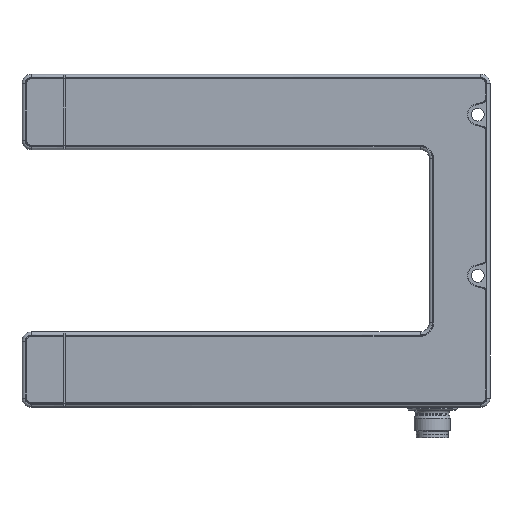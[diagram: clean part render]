
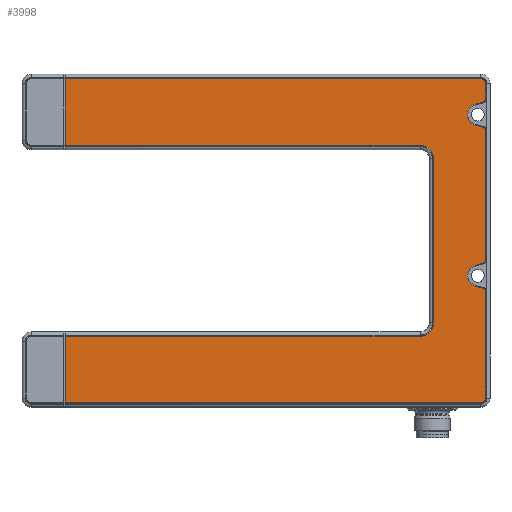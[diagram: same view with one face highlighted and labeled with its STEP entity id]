
A CAD part, front view. The second image highlights one B-rep face of the part: STEP entity #3998.
In plain terms, the highlighted planar face has unit normal (0, -1, 0).
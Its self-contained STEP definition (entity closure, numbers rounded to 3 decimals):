
#133=PLANE('',#4384);
#276=FACE_OUTER_BOUND('',#510,.T.);
#510=EDGE_LOOP('',(#3131,#3132,#3133,#3134,#3135,#3136,#3137,#3138,#3139,
#3140,#3141,#3142,#3143,#3144,#3145,#3146,#3147,#3148,#3149,#3150,#3151,
#3152,#3153,#3154));
#749=LINE('',#6407,#1083);
#808=LINE('',#6618,#1142);
#819=LINE('',#6646,#1153);
#851=LINE('',#6717,#1185);
#855=LINE('',#6724,#1189);
#859=LINE('',#6743,#1193);
#860=LINE('',#6747,#1194);
#861=LINE('',#6751,#1195);
#862=LINE('',#6755,#1196);
#863=LINE('',#6759,#1197);
#864=LINE('',#6763,#1198);
#865=LINE('',#6767,#1199);
#866=LINE('',#6772,#1200);
#867=LINE('',#6775,#1201);
#1083=VECTOR('',#5035,10.);
#1142=VECTOR('',#5216,10.);
#1153=VECTOR('',#5237,10.);
#1185=VECTOR('',#5303,10.);
#1189=VECTOR('',#5309,10.);
#1193=VECTOR('',#5329,10.);
#1194=VECTOR('',#5332,10.);
#1195=VECTOR('',#5335,10.);
#1196=VECTOR('',#5338,10.);
#1197=VECTOR('',#5341,10.);
#1198=VECTOR('',#5344,10.);
#1199=VECTOR('',#5347,10.);
#1200=VECTOR('',#5352,10.);
#1201=VECTOR('',#5355,10.);
#1461=CIRCLE('',#4385,1.55);
#1462=CIRCLE('',#4386,0.95);
#1463=CIRCLE('',#4387,3.55);
#1464=CIRCLE('',#4388,0.95);
#1465=CIRCLE('',#4389,0.95);
#1466=CIRCLE('',#4390,3.55);
#1467=CIRCLE('',#4391,0.95);
#1468=CIRCLE('',#4392,1.55);
#1469=CIRCLE('',#4393,4.45);
#1470=CIRCLE('',#4394,4.45);
#1722=VERTEX_POINT('',#6404);
#1723=VERTEX_POINT('',#6406);
#1813=VERTEX_POINT('',#6615);
#1824=VERTEX_POINT('',#6640);
#1826=VERTEX_POINT('',#6644);
#1848=VERTEX_POINT('',#6715);
#1850=VERTEX_POINT('',#6722);
#1856=VERTEX_POINT('',#6740);
#1857=VERTEX_POINT('',#6742);
#1858=VERTEX_POINT('',#6744);
#1859=VERTEX_POINT('',#6746);
#1860=VERTEX_POINT('',#6748);
#1861=VERTEX_POINT('',#6750);
#1862=VERTEX_POINT('',#6752);
#1863=VERTEX_POINT('',#6754);
#1864=VERTEX_POINT('',#6756);
#1865=VERTEX_POINT('',#6758);
#1866=VERTEX_POINT('',#6760);
#1867=VERTEX_POINT('',#6762);
#1868=VERTEX_POINT('',#6764);
#1869=VERTEX_POINT('',#6766);
#1870=VERTEX_POINT('',#6769);
#1871=VERTEX_POINT('',#6771);
#1872=VERTEX_POINT('',#6773);
#2170=EDGE_CURVE('',#1723,#1722,#749,.T.);
#2275=EDGE_CURVE('',#1722,#1813,#808,.T.);
#2288=EDGE_CURVE('',#1824,#1826,#819,.T.);
#2324=EDGE_CURVE('',#1826,#1848,#851,.T.);
#2328=EDGE_CURVE('',#1813,#1850,#855,.T.);
#2336=EDGE_CURVE('',#1848,#1856,#1461,.T.);
#2337=EDGE_CURVE('',#1856,#1857,#859,.T.);
#2338=EDGE_CURVE('',#1857,#1858,#1462,.T.);
#2339=EDGE_CURVE('',#1858,#1859,#860,.T.);
#2340=EDGE_CURVE('',#1859,#1860,#1463,.T.);
#2341=EDGE_CURVE('',#1860,#1861,#861,.T.);
#2342=EDGE_CURVE('',#1861,#1862,#1464,.T.);
#2343=EDGE_CURVE('',#1862,#1863,#862,.T.);
#2344=EDGE_CURVE('',#1863,#1864,#1465,.T.);
#2345=EDGE_CURVE('',#1864,#1865,#863,.T.);
#2346=EDGE_CURVE('',#1865,#1866,#1466,.T.);
#2347=EDGE_CURVE('',#1866,#1867,#864,.T.);
#2348=EDGE_CURVE('',#1867,#1868,#1467,.T.);
#2349=EDGE_CURVE('',#1868,#1869,#865,.T.);
#2350=EDGE_CURVE('',#1869,#1723,#1468,.T.);
#2351=EDGE_CURVE('',#1850,#1870,#1469,.T.);
#2352=EDGE_CURVE('',#1870,#1871,#866,.T.);
#2353=EDGE_CURVE('',#1871,#1872,#1470,.T.);
#2354=EDGE_CURVE('',#1872,#1824,#867,.T.);
#3131=ORIENTED_EDGE('',*,*,#2288,.T.);
#3132=ORIENTED_EDGE('',*,*,#2324,.T.);
#3133=ORIENTED_EDGE('',*,*,#2336,.T.);
#3134=ORIENTED_EDGE('',*,*,#2337,.T.);
#3135=ORIENTED_EDGE('',*,*,#2338,.T.);
#3136=ORIENTED_EDGE('',*,*,#2339,.T.);
#3137=ORIENTED_EDGE('',*,*,#2340,.T.);
#3138=ORIENTED_EDGE('',*,*,#2341,.T.);
#3139=ORIENTED_EDGE('',*,*,#2342,.T.);
#3140=ORIENTED_EDGE('',*,*,#2343,.T.);
#3141=ORIENTED_EDGE('',*,*,#2344,.T.);
#3142=ORIENTED_EDGE('',*,*,#2345,.T.);
#3143=ORIENTED_EDGE('',*,*,#2346,.T.);
#3144=ORIENTED_EDGE('',*,*,#2347,.T.);
#3145=ORIENTED_EDGE('',*,*,#2348,.T.);
#3146=ORIENTED_EDGE('',*,*,#2349,.T.);
#3147=ORIENTED_EDGE('',*,*,#2350,.T.);
#3148=ORIENTED_EDGE('',*,*,#2170,.T.);
#3149=ORIENTED_EDGE('',*,*,#2275,.T.);
#3150=ORIENTED_EDGE('',*,*,#2328,.T.);
#3151=ORIENTED_EDGE('',*,*,#2351,.T.);
#3152=ORIENTED_EDGE('',*,*,#2352,.T.);
#3153=ORIENTED_EDGE('',*,*,#2353,.T.);
#3154=ORIENTED_EDGE('',*,*,#2354,.T.);
#3998=ADVANCED_FACE('',(#276),#133,.F.);
#4384=AXIS2_PLACEMENT_3D('',#6739,#5325,#5326);
#4385=AXIS2_PLACEMENT_3D('',#6741,#5327,#5328);
#4386=AXIS2_PLACEMENT_3D('',#6745,#5330,#5331);
#4387=AXIS2_PLACEMENT_3D('',#6749,#5333,#5334);
#4388=AXIS2_PLACEMENT_3D('',#6753,#5336,#5337);
#4389=AXIS2_PLACEMENT_3D('',#6757,#5339,#5340);
#4390=AXIS2_PLACEMENT_3D('',#6761,#5342,#5343);
#4391=AXIS2_PLACEMENT_3D('',#6765,#5345,#5346);
#4392=AXIS2_PLACEMENT_3D('',#6768,#5348,#5349);
#4393=AXIS2_PLACEMENT_3D('',#6770,#5350,#5351);
#4394=AXIS2_PLACEMENT_3D('',#6774,#5353,#5354);
#5035=DIRECTION('',(-1.,0.,0.));
#5216=DIRECTION('',(0.,0.,-1.));
#5237=DIRECTION('',(0.,0.,-1.));
#5303=DIRECTION('',(1.,0.,0.));
#5309=DIRECTION('',(1.,0.,0.));
#5325=DIRECTION('center_axis',(0.,1.,0.));
#5326=DIRECTION('ref_axis',(0.,0.,1.));
#5327=DIRECTION('center_axis',(0.,-1.,0.));
#5328=DIRECTION('ref_axis',(1.,0.,0.));
#5329=DIRECTION('',(0.,0.,1.));
#5330=DIRECTION('center_axis',(0.,-1.,0.));
#5331=DIRECTION('ref_axis',(0.259,0.,0.966));
#5332=DIRECTION('',(-0.966,0.,0.259));
#5333=DIRECTION('center_axis',(0.,1.,0.));
#5334=DIRECTION('ref_axis',(0.259,0.,0.966));
#5335=DIRECTION('',(0.966,0.,0.259));
#5336=DIRECTION('center_axis',(0.,-1.,0.));
#5337=DIRECTION('ref_axis',(1.,0.,0.));
#5338=DIRECTION('',(0.,0.,1.));
#5339=DIRECTION('center_axis',(0.,-1.,0.));
#5340=DIRECTION('ref_axis',(0.259,0.,0.966));
#5341=DIRECTION('',(-0.966,0.,0.259));
#5342=DIRECTION('center_axis',(0.,1.,0.));
#5343=DIRECTION('ref_axis',(0.259,0.,0.966));
#5344=DIRECTION('',(0.966,0.,0.259));
#5345=DIRECTION('center_axis',(0.,-1.,0.));
#5346=DIRECTION('ref_axis',(1.,0.,0.));
#5347=DIRECTION('',(0.,0.,1.));
#5348=DIRECTION('center_axis',(0.,-1.,0.));
#5349=DIRECTION('ref_axis',(0.,0.,1.));
#5350=DIRECTION('center_axis',(0.,1.,0.));
#5351=DIRECTION('ref_axis',(0.,0.,-1.));
#5352=DIRECTION('',(0.,0.,-1.));
#5353=DIRECTION('center_axis',(0.,1.,0.));
#5354=DIRECTION('ref_axis',(-1.,0.,0.));
#5355=DIRECTION('',(-1.,0.,0.));
#6404=CARTESIAN_POINT('',(-139.75,-13.5,-1.45));
#6406=CARTESIAN_POINT('',(-3.,-13.5,-1.45));
#6407=CARTESIAN_POINT('',(-36.552,-13.5,-1.45));
#6615=CARTESIAN_POINT('',(-139.75,-13.5,-23.3));
#6618=CARTESIAN_POINT('',(-139.75,-13.5,-83.375));
#6640=CARTESIAN_POINT('',(-139.75,-13.5,-86.2));
#6644=CARTESIAN_POINT('',(-139.75,-13.5,-108.05));
#6646=CARTESIAN_POINT('',(-139.75,-13.5,-83.375));
#6715=CARTESIAN_POINT('',(-3.,-13.5,-108.05));
#6717=CARTESIAN_POINT('',(-110.552,-13.5,-108.05));
#6722=CARTESIAN_POINT('',(-23.,-13.5,-23.3));
#6724=CARTESIAN_POINT('',(-110.552,-13.5,-23.3));
#6739=CARTESIAN_POINT('Origin',(-70.104,-13.5,-54.75));
#6740=CARTESIAN_POINT('',(-1.45,-13.5,-106.5));
#6741=CARTESIAN_POINT('Origin',(-3.,-13.5,-106.5));
#6742=CARTESIAN_POINT('',(-1.45,-13.5,-71.337));
#6743=CARTESIAN_POINT('',(-1.45,-13.5,-80.625));
#6744=CARTESIAN_POINT('',(-2.154,-13.5,-70.42));
#6745=CARTESIAN_POINT('Origin',(-2.4,-13.5,-71.337));
#6746=CARTESIAN_POINT('',(-4.919,-13.5,-69.679));
#6747=CARTESIAN_POINT('',(-35.812,-13.5,-61.401));
#6748=CARTESIAN_POINT('',(-4.919,-13.5,-62.821));
#6749=CARTESIAN_POINT('Origin',(-4.,-13.5,-66.25));
#6750=CARTESIAN_POINT('',(-2.154,-13.5,-62.08));
#6751=CARTESIAN_POINT('',(-34.319,-13.5,-70.699));
#6752=CARTESIAN_POINT('',(-1.45,-13.5,-61.163));
#6753=CARTESIAN_POINT('Origin',(-2.4,-13.5,-61.163));
#6754=CARTESIAN_POINT('',(-1.45,-13.5,-18.337));
#6755=CARTESIAN_POINT('',(-1.45,-13.5,-57.956));
#6756=CARTESIAN_POINT('',(-2.154,-13.5,-17.42));
#6757=CARTESIAN_POINT('Origin',(-2.4,-13.5,-18.337));
#6758=CARTESIAN_POINT('',(-4.919,-13.5,-16.679));
#6759=CARTESIAN_POINT('',(-29.187,-13.5,-10.176));
#6760=CARTESIAN_POINT('',(-4.919,-13.5,-9.821));
#6761=CARTESIAN_POINT('Origin',(-4.,-13.5,-13.25));
#6762=CARTESIAN_POINT('',(-2.154,-13.5,-9.08));
#6763=CARTESIAN_POINT('',(-40.944,-13.5,-19.474));
#6764=CARTESIAN_POINT('',(-1.45,-13.5,-8.163));
#6765=CARTESIAN_POINT('Origin',(-2.4,-13.5,-8.163));
#6766=CARTESIAN_POINT('',(-1.45,-13.5,-3.));
#6767=CARTESIAN_POINT('',(-1.45,-13.5,-31.456));
#6768=CARTESIAN_POINT('Origin',(-3.,-13.5,-3.));
#6769=CARTESIAN_POINT('',(-18.55,-13.5,-27.75));
#6770=CARTESIAN_POINT('Origin',(-23.,-13.5,-27.75));
#6771=CARTESIAN_POINT('',(-18.55,-13.5,-81.75));
#6772=CARTESIAN_POINT('',(-18.55,-13.5,-41.25));
#6773=CARTESIAN_POINT('',(-23.,-13.5,-86.2));
#6774=CARTESIAN_POINT('Origin',(-23.,-13.5,-81.75));
#6775=CARTESIAN_POINT('',(-46.552,-13.5,-86.2));
